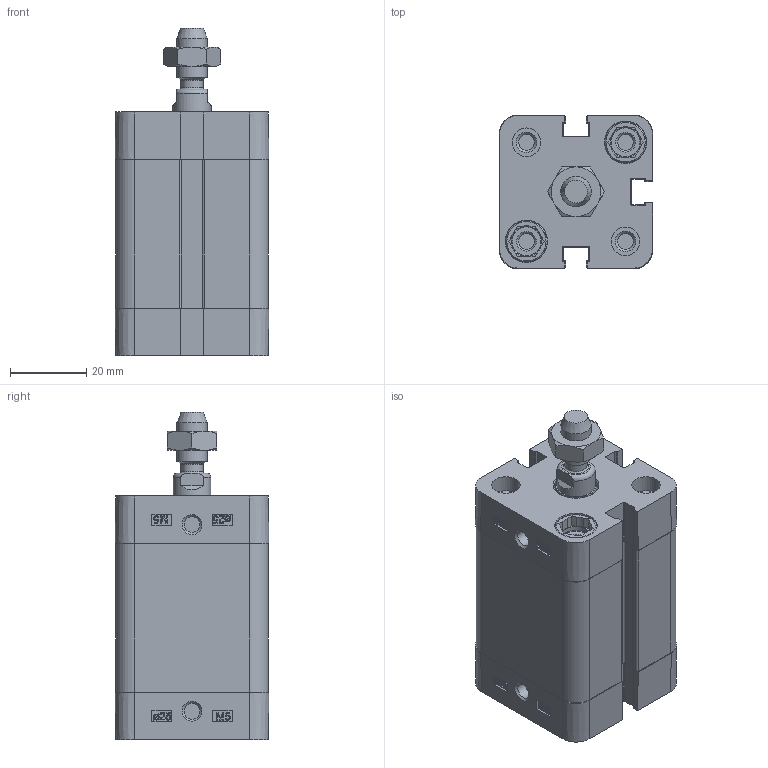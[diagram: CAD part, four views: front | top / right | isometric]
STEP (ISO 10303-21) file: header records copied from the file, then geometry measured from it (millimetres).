
FILE_DESCRIPTION(/* description */ ('Unknown'),/* implementation_level */ '2;1');
FILE_NAME(/* name */ 'ZEF 25_25',/* time_stamp */ '2025-01-24T08:44:02+01:00',/* author */ ('Unknown'),/* organization */ ('HAFNER Pneumatika Kft'),/* preprocessor_version */ 'ST-DEVELOPER v16.7',/* originating_system */ 'Solid Edge',/* authorisation */ 'Unknown');
FILE_SCHEMA (('AUTOMOTIVE_DESIGN {1 0 10303 214 3 1 1}'));
Length unit declared in the file: millimetre
Products named in the file (6): ZEF 25_25; Mutter; Profilrohr; Kolbenstange; Kit_2; Kit_1
Assembly tree (5 placements, depth 2):
  ZEF 25_25
    Mutter
    Profilrohr
    Kolbenstange
    Kit_2
    Kit_1
Bounding box: 40.3 x 40.3 x 86 mm (x, y, z)
Volume: 83107.9 mm3; surface area: 32576.4 mm2
Topology: 5 solids, 11 shells, 609 faces, 1603 edges, 1055 vertices
Faces by surface type: plane 307, cylinder 142, bspline 84, cone 58, torus 18
Full cylindrical faces by diameter (mm): 4.134 x10, 5.8 x1, 6.647 x1, 7.5 x4, 8 x9, 9 x1, 10 x1, 10.48 x1, 10.9 x4, 11.1 x4, 11.4 x1, 12 x1, 13.84 x1, 14 x1, 25 x2
Entity records: 22319 total; most frequent: CARTESIAN_POINT 4293, ORIENTED_EDGE 2958, DIRECTION 2710, EDGE_CURVE 1479, VERTEX_POINT 1025, AXIS2_PLACEMENT_3D 912, LINE 886, VECTOR 886
